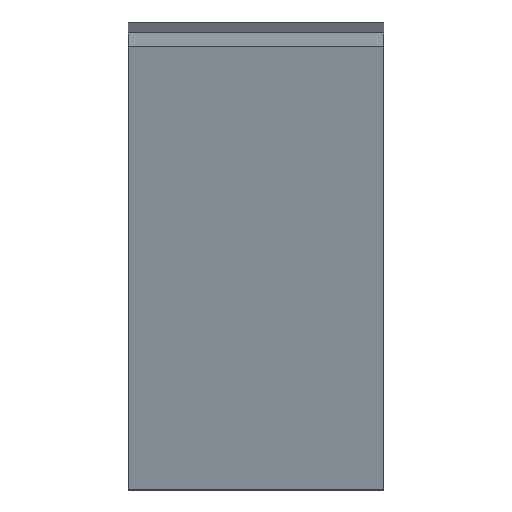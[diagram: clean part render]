
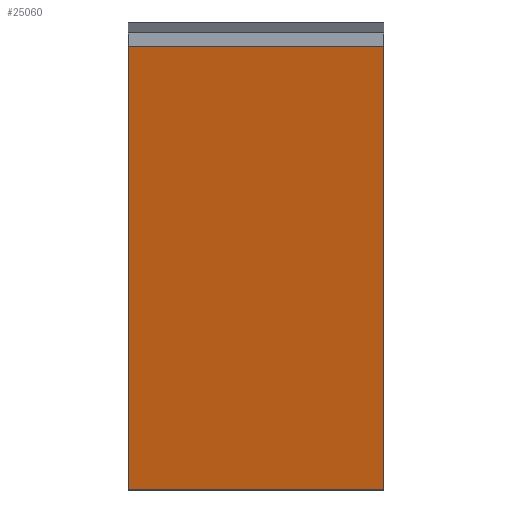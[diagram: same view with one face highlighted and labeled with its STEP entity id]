
A CAD part, front view. The second image highlights one B-rep face of the part: STEP entity #25060.
In plain terms, the highlighted planar face has unit normal (0, -0.977, -0.215).
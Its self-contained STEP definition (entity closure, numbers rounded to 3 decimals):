
#72 = PLANE('',#73);
#73 = AXIS2_PLACEMENT_3D('',#74,#75,#76);
#74 = CARTESIAN_POINT('',(-28.,-12.471,-64.668));
#75 = DIRECTION('',(1.,0.,-0.));
#76 = DIRECTION('',(-0.,0.,-1.));
#126 = PLANE('',#127);
#127 = AXIS2_PLACEMENT_3D('',#128,#129,#130);
#128 = CARTESIAN_POINT('',(28.,-12.471,-64.668));
#129 = DIRECTION('',(1.,0.,-0.));
#130 = DIRECTION('',(-0.,0.,-1.));
#3959 = VERTEX_POINT('',#3960);
#3960 = CARTESIAN_POINT('',(28.,-29.338,-29.008));
#3974 = PLANE('',#3975);
#3975 = AXIS2_PLACEMENT_3D('',#3976,#3977,#3978);
#3976 = CARTESIAN_POINT('',(28.,-29.339,-29.007));
#3977 = DIRECTION('',(0.,-0.965,
    -0.262));
#3978 = DIRECTION('',(0.,0.262,-0.965)
  );
#3986 = EDGE_CURVE('',#3959,#3987,#3989,.T.);
#3987 = VERTEX_POINT('',#3988);
#3988 = CARTESIAN_POINT('',(28.,-8.,-126.));
#3989 = SURFACE_CURVE('',#3990,(#3994,#4001),.PCURVE_S1.);
#3990 = LINE('',#3991,#3992);
#3991 = CARTESIAN_POINT('',(28.,-29.338,-29.008));
#3992 = VECTOR('',#3993,1.);
#3993 = DIRECTION('',(0.,0.215,-0.977)
  );
#3994 = PCURVE('',#126,#3995);
#3995 = DEFINITIONAL_REPRESENTATION('',(#3996),#4000);
#3996 = LINE('',#3997,#3998);
#3997 = CARTESIAN_POINT('',(-35.661,-16.867));
#3998 = VECTOR('',#3999,1.);
#3999 = DIRECTION('',(0.977,0.215));
#4000 = ( GEOMETRIC_REPRESENTATION_CONTEXT(2) 
PARAMETRIC_REPRESENTATION_CONTEXT() REPRESENTATION_CONTEXT('2D SPACE',''
  ) );
#4001 = PCURVE('',#4002,#4007);
#4002 = PLANE('',#4003);
#4003 = AXIS2_PLACEMENT_3D('',#4004,#4005,#4006);
#4004 = CARTESIAN_POINT('',(28.,-29.338,-29.008));
#4005 = DIRECTION('',(0.,-0.977,
    -0.215));
#4006 = DIRECTION('',(0.,0.215,-0.977)
  );
#4007 = DEFINITIONAL_REPRESENTATION('',(#4008),#4012);
#4008 = LINE('',#4009,#4010);
#4009 = CARTESIAN_POINT('',(0.,0.));
#4010 = VECTOR('',#4011,1.);
#4011 = DIRECTION('',(1.,0.));
#4012 = ( GEOMETRIC_REPRESENTATION_CONTEXT(2) 
PARAMETRIC_REPRESENTATION_CONTEXT() REPRESENTATION_CONTEXT('2D SPACE',''
  ) );
#4030 = PLANE('',#4031);
#4031 = AXIS2_PLACEMENT_3D('',#4032,#4033,#4034);
#4032 = CARTESIAN_POINT('',(28.,-8.,-126.));
#4033 = DIRECTION('',(0.,-0.965,
    -0.262));
#4034 = DIRECTION('',(0.,0.262,-0.965)
  );
#16725 = VERTEX_POINT('',#16726);
#16726 = CARTESIAN_POINT('',(-28.,-29.338,-29.008));
#16747 = EDGE_CURVE('',#16725,#16748,#16750,.T.);
#16748 = VERTEX_POINT('',#16749);
#16749 = CARTESIAN_POINT('',(-28.,-8.,-126.));
#16750 = SURFACE_CURVE('',#16751,(#16755,#16762),.PCURVE_S1.);
#16751 = LINE('',#16752,#16753);
#16752 = CARTESIAN_POINT('',(-28.,-29.338,-29.008));
#16753 = VECTOR('',#16754,1.);
#16754 = DIRECTION('',(0.,0.215,-0.977
    ));
#16755 = PCURVE('',#72,#16756);
#16756 = DEFINITIONAL_REPRESENTATION('',(#16757),#16761);
#16757 = LINE('',#16758,#16759);
#16758 = CARTESIAN_POINT('',(-35.661,-16.867));
#16759 = VECTOR('',#16760,1.);
#16760 = DIRECTION('',(0.977,0.215));
#16761 = ( GEOMETRIC_REPRESENTATION_CONTEXT(2) 
PARAMETRIC_REPRESENTATION_CONTEXT() REPRESENTATION_CONTEXT('2D SPACE',''
  ) );
#16762 = PCURVE('',#4002,#16763);
#16763 = DEFINITIONAL_REPRESENTATION('',(#16764),#16768);
#16764 = LINE('',#16765,#16766);
#16765 = CARTESIAN_POINT('',(0.,-56.));
#16766 = VECTOR('',#16767,1.);
#16767 = DIRECTION('',(1.,0.));
#16768 = ( GEOMETRIC_REPRESENTATION_CONTEXT(2) 
PARAMETRIC_REPRESENTATION_CONTEXT() REPRESENTATION_CONTEXT('2D SPACE',''
  ) );
#25010 = EDGE_CURVE('',#3987,#16748,#25011,.T.);
#25011 = SURFACE_CURVE('',#25012,(#25016,#25023),.PCURVE_S1.);
#25012 = LINE('',#25013,#25014);
#25013 = CARTESIAN_POINT('',(28.,-8.,-126.));
#25014 = VECTOR('',#25015,1.);
#25015 = DIRECTION('',(-1.,0.,0.));
#25016 = PCURVE('',#4030,#25017);
#25017 = DEFINITIONAL_REPRESENTATION('',(#25018),#25022);
#25018 = LINE('',#25019,#25020);
#25019 = CARTESIAN_POINT('',(0.,0.));
#25020 = VECTOR('',#25021,1.);
#25021 = DIRECTION('',(0.,-1.));
#25022 = ( GEOMETRIC_REPRESENTATION_CONTEXT(2) 
PARAMETRIC_REPRESENTATION_CONTEXT() REPRESENTATION_CONTEXT('2D SPACE',''
  ) );
#25023 = PCURVE('',#4002,#25024);
#25024 = DEFINITIONAL_REPRESENTATION('',(#25025),#25029);
#25025 = LINE('',#25026,#25027);
#25026 = CARTESIAN_POINT('',(99.311,0.));
#25027 = VECTOR('',#25028,1.);
#25028 = DIRECTION('',(0.,-1.));
#25029 = ( GEOMETRIC_REPRESENTATION_CONTEXT(2) 
PARAMETRIC_REPRESENTATION_CONTEXT() REPRESENTATION_CONTEXT('2D SPACE',''
  ) );
#25060 = ADVANCED_FACE('',(#25061),#4002,.T.);
#25061 = FACE_BOUND('',#25062,.T.);
#25062 = EDGE_LOOP('',(#25063,#25084,#25085,#25086));
#25063 = ORIENTED_EDGE('',*,*,#25064,.T.);
#25064 = EDGE_CURVE('',#3959,#16725,#25065,.T.);
#25065 = SURFACE_CURVE('',#25066,(#25070,#25077),.PCURVE_S1.);
#25066 = LINE('',#25067,#25068);
#25067 = CARTESIAN_POINT('',(28.,-29.338,-29.008));
#25068 = VECTOR('',#25069,1.);
#25069 = DIRECTION('',(-1.,0.,0.));
#25070 = PCURVE('',#4002,#25071);
#25071 = DEFINITIONAL_REPRESENTATION('',(#25072),#25076);
#25072 = LINE('',#25073,#25074);
#25073 = CARTESIAN_POINT('',(0.,0.));
#25074 = VECTOR('',#25075,1.);
#25075 = DIRECTION('',(0.,-1.));
#25076 = ( GEOMETRIC_REPRESENTATION_CONTEXT(2) 
PARAMETRIC_REPRESENTATION_CONTEXT() REPRESENTATION_CONTEXT('2D SPACE',''
  ) );
#25077 = PCURVE('',#3974,#25078);
#25078 = DEFINITIONAL_REPRESENTATION('',(#25079),#25083);
#25079 = LINE('',#25080,#25081);
#25080 = CARTESIAN_POINT('',(0.001,0.));
#25081 = VECTOR('',#25082,1.);
#25082 = DIRECTION('',(0.,-1.));
#25083 = ( GEOMETRIC_REPRESENTATION_CONTEXT(2) 
PARAMETRIC_REPRESENTATION_CONTEXT() REPRESENTATION_CONTEXT('2D SPACE',''
  ) );
#25084 = ORIENTED_EDGE('',*,*,#16747,.T.);
#25085 = ORIENTED_EDGE('',*,*,#25010,.F.);
#25086 = ORIENTED_EDGE('',*,*,#3986,.F.);
